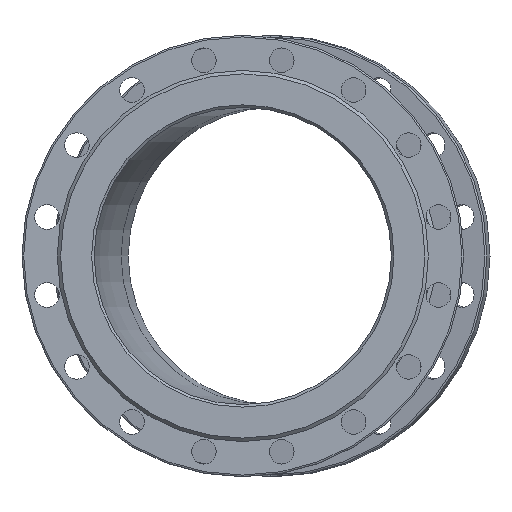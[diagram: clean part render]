
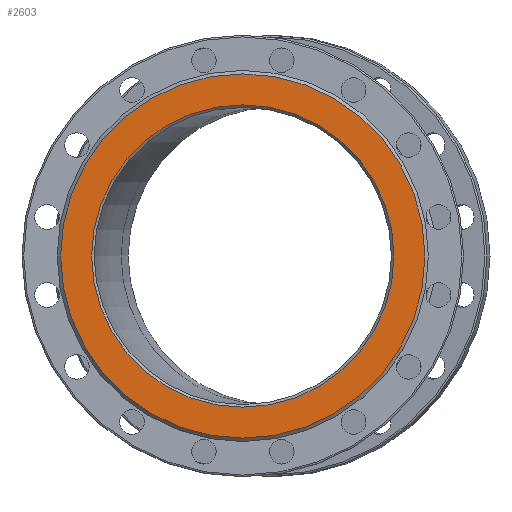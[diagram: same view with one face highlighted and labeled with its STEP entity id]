
A CAD part, left-side view. The second image highlights one B-rep face of the part: STEP entity #2603.
In plain terms, the highlighted planar face has unit normal (-1, 0, 0).
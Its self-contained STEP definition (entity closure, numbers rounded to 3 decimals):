
#1 = FACE_OUTER_BOUND ( 'NONE', #1506, .T. ) ;
#83 = VERTEX_POINT ( 'NONE', #1133 ) ;
#155 = VERTEX_POINT ( 'NONE', #1782 ) ;
#285 = DIRECTION ( 'NONE',  ( 0., 1., 0. ) ) ;
#455 = CARTESIAN_POINT ( 'NONE',  ( -191., 0., 0. ) ) ;
#544 = ORIENTED_EDGE ( 'NONE', *, *, #2376, .F. ) ;
#549 = FACE_BOUND ( 'NONE', #2768, .T. ) ;
#770 = PLANE ( 'NONE',  #1075 ) ;
#924 = DIRECTION ( 'NONE',  ( 0., 1., 0. ) ) ;
#1075 = AXIS2_PLACEMENT_3D ( 'NONE', #2663, #2126, #285 ) ;
#1133 = CARTESIAN_POINT ( 'NONE',  ( -191., 214.5, 0. ) ) ;
#1467 = CARTESIAN_POINT ( 'NONE',  ( -191., 0., 0. ) ) ;
#1484 = DIRECTION ( 'NONE',  ( 0., 1., 0. ) ) ;
#1506 = EDGE_LOOP ( 'NONE', ( #544 ) ) ;
#1513 = DIRECTION ( 'NONE',  ( 1., 0., 0. ) ) ;
#1579 = CIRCLE ( 'NONE', #2861, 214.5 ) ;
#1740 = DIRECTION ( 'NONE',  ( 1., 0., 0. ) ) ;
#1782 = CARTESIAN_POINT ( 'NONE',  ( -191., 178., 0. ) ) ;
#1804 = AXIS2_PLACEMENT_3D ( 'NONE', #1467, #1513, #1484 ) ;
#2087 = CIRCLE ( 'NONE', #1804, 178. ) ;
#2126 = DIRECTION ( 'NONE',  ( 1., 0., 0. ) ) ;
#2376 = EDGE_CURVE ( 'NONE', #83, #83, #1579, .T. ) ;
#2416 = EDGE_CURVE ( 'NONE', #155, #155, #2087, .T. ) ;
#2603 = ADVANCED_FACE ( 'NONE', ( #549, #1 ), #770, .F. ) ;
#2663 = CARTESIAN_POINT ( 'NONE',  ( -191., 0., 0. ) ) ;
#2768 = EDGE_LOOP ( 'NONE', ( #2839 ) ) ;
#2839 = ORIENTED_EDGE ( 'NONE', *, *, #2416, .T. ) ;
#2861 = AXIS2_PLACEMENT_3D ( 'NONE', #455, #1740, #924 ) ;
